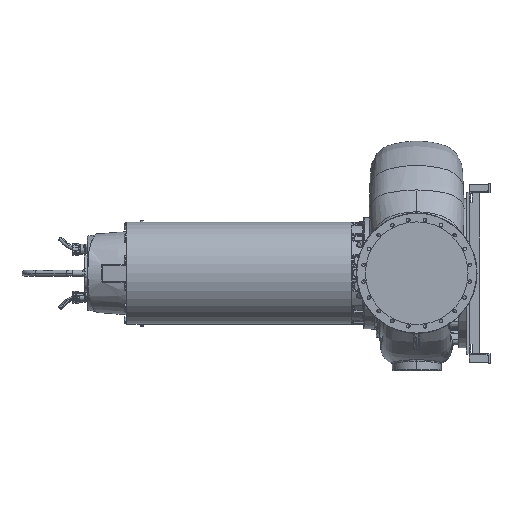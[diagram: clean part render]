
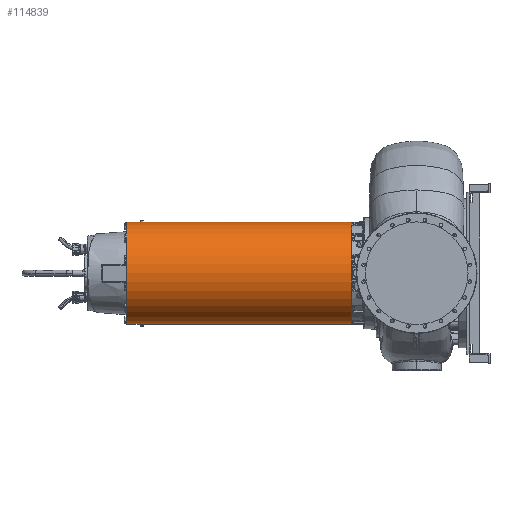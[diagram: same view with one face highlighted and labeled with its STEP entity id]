
A CAD part, left-side view. The second image highlights one B-rep face of the part: STEP entity #114839.
In plain terms, the highlighted cylindrical face has radius 344 mm (diameter 688 mm), a partial arc.
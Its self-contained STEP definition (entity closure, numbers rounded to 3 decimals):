
#769 = DIRECTION ( 'NONE',  ( 0., 0., -1. ) ) ;
#4762 = VERTEX_POINT ( 'NONE', #210845 ) ;
#10743 = CARTESIAN_POINT ( 'NONE',  ( 0., 1843.53, -344. ) ) ;
#10848 = VECTOR ( 'NONE', #113070, 1000. ) ;
#13176 = EDGE_CURVE ( 'NONE', #4762, #105760, #114144, .T. ) ;
#15895 = EDGE_CURVE ( 'NONE', #28999, #262936, #251315, .T. ) ;
#17897 = CARTESIAN_POINT ( 'NONE',  ( -6.334, 1861.813, -343.956 ) ) ;
#20220 = LINE ( 'NONE', #97766, #245668 ) ;
#23845 = VERTEX_POINT ( 'NONE', #263895 ) ;
#28999 = VERTEX_POINT ( 'NONE', #68108 ) ;
#34017 = EDGE_CURVE ( 'NONE', #110295, #28999, #126970, .T. ) ;
#34025 = CYLINDRICAL_SURFACE ( 'NONE', #278737, 344. ) ;
#34175 = VECTOR ( 'NONE', #250456, 1000. ) ;
#37062 = VECTOR ( 'NONE', #103054, 1000. ) ;
#37079 = ORIENTED_EDGE ( 'NONE', *, *, #279748, .T. ) ;
#38640 = ORIENTED_EDGE ( 'NONE', *, *, #50222, .T. ) ;
#43735 = DIRECTION ( 'NONE',  ( 0., -1., 0. ) ) ;
#44722 = CARTESIAN_POINT ( 'NONE',  ( -9.5, 1849.015, -343.869 ) ) ;
#50222 = EDGE_CURVE ( 'NONE', #193313, #262936, #54374, .T. ) ;
#51701 = EDGE_CURVE ( 'NONE', #252935, #62838, #20220, .T. ) ;
#52877 = VERTEX_POINT ( 'NONE', #123889 ) ;
#54374 = LINE ( 'NONE', #271286, #112466 ) ;
#56932 = CARTESIAN_POINT ( 'NONE',  ( 0., 439.5, 0. ) ) ;
#57670 = VECTOR ( 'NONE', #129645, 1000. ) ;
#60225 = VERTEX_POINT ( 'NONE', #10743 ) ;
#62838 = VERTEX_POINT ( 'NONE', #153566 ) ;
#63310 = ORIENTED_EDGE ( 'NONE', *, *, #34017, .F. ) ;
#65454 = CARTESIAN_POINT ( 'NONE',  ( -3.167, 1863.641, -344. ) ) ;
#68108 = CARTESIAN_POINT ( 'NONE',  ( -9.5, 1859.985, -343.869 ) ) ;
#69809 = EDGE_CURVE ( 'NONE', #23845, #52877, #191277, .T. ) ;
#71222 = ORIENTED_EDGE ( 'NONE', *, *, #152974, .F. ) ;
#74904 = CARTESIAN_POINT ( 'NONE',  ( 0., 1954.5, -344. ) ) ;
#78510 = EDGE_LOOP ( 'NONE', ( #172862, #283661, #38640, #173036, #63310, #71222, #37079, #270908, #141430, #255723, #108402, #157745 ) ) ;
#78903 = DIRECTION ( 'NONE',  ( 0., 0., -1. ) ) ;
#79079 = CARTESIAN_POINT ( 'NONE',  ( -9.5, 1859.985, 343.869 ) ) ;
#81293 = CARTESIAN_POINT ( 'NONE',  ( -9.5, 1849.015, 343.869 ) ) ;
#87474 = CARTESIAN_POINT ( 'NONE',  ( 0., 1865.47, -344. ) ) ;
#94871 = CARTESIAN_POINT ( 'NONE',  ( 0., 1954.5, 344. ) ) ;
#97591 = CARTESIAN_POINT ( 'NONE',  ( -9.5, 2094.849, 343.869 ) ) ;
#97766 = CARTESIAN_POINT ( 'NONE',  ( 0., 459.5, 344. ) ) ;
#100256 = CARTESIAN_POINT ( 'NONE',  ( 0., 459.5, 344. ) ) ;
#101003 = CARTESIAN_POINT ( 'NONE',  ( -3.167, 1863.641, 344. ) ) ;
#103054 = DIRECTION ( 'NONE',  ( 0., -1., 0. ) ) ;
#103879 = CARTESIAN_POINT ( 'NONE',  ( 0., 1954.5, 0. ) ) ;
#104723 = CARTESIAN_POINT ( 'NONE',  ( 0., 1843.53, -344. ) ) ;
#105760 = VERTEX_POINT ( 'NONE', #156031 ) ;
#108402 = ORIENTED_EDGE ( 'NONE', *, *, #215104, .T. ) ;
#109267 = AXIS2_PLACEMENT_3D ( 'NONE', #103879, #256831, #125839 ) ;
#110295 = VERTEX_POINT ( 'NONE', #44722 ) ;
#112466 = VECTOR ( 'NONE', #118360, 1000. ) ;
#113070 = DIRECTION ( 'NONE',  ( 0., 1., 0. ) ) ;
#114144 = CIRCLE ( 'NONE', #153413, 344. ) ;
#114839 = ADVANCED_FACE ( 'NONE', ( #177707 ), #34025, .T. ) ;
#115739 = LINE ( 'NONE', #238590, #57670 ) ;
#116871 = CARTESIAN_POINT ( 'NONE',  ( 0., 1865.47, -344. ) ) ;
#118360 = DIRECTION ( 'NONE',  ( 0., -1., 0. ) ) ;
#123889 = CARTESIAN_POINT ( 'NONE',  ( -9.5, 1849.015, 343.869 ) ) ;
#125839 = DIRECTION ( 'NONE',  ( 0., 0., -1. ) ) ;
#126658 = CARTESIAN_POINT ( 'NONE',  ( -6.334, 1847.187, -343.956 ) ) ;
#126970 = LINE ( 'NONE', #267791, #10848 ) ;
#128583 = EDGE_CURVE ( 'NONE', #253833, #62838, #147600, .T. ) ;
#129645 = DIRECTION ( 'NONE',  ( 0., -1., 0. ) ) ;
#138996 = CARTESIAN_POINT ( 'NONE',  ( -9.5, 1859.985, 343.869 ) ) ;
#141430 = ORIENTED_EDGE ( 'NONE', *, *, #143712, .F. ) ;
#143712 = EDGE_CURVE ( 'NONE', #23845, #4762, #269447, .T. ) ;
#147600 =( BOUNDED_CURVE ( )  B_SPLINE_CURVE ( 3, ( #79079, #210075, #101003, #253934 ),
 .UNSPECIFIED., .F., .T. ) 
 B_SPLINE_CURVE_WITH_KNOTS ( ( 4, 4 ),
 ( 4.685, 4.712 ),
 .UNSPECIFIED. ) 
 CURVE ( )  GEOMETRIC_REPRESENTATION_ITEM ( )  RATIONAL_B_SPLINE_CURVE ( ( 1., 1., 1., 1. ) ) 
 REPRESENTATION_ITEM ( '' )  );
#152974 = EDGE_CURVE ( 'NONE', #60225, #110295, #234526, .T. ) ;
#153413 = AXIS2_PLACEMENT_3D ( 'NONE', #56932, #209908, #78903 ) ;
#153566 = CARTESIAN_POINT ( 'NONE',  ( 0., 1865.47, 344. ) ) ;
#156031 = CARTESIAN_POINT ( 'NONE',  ( 0., 439.5, -344. ) ) ;
#157745 = ORIENTED_EDGE ( 'NONE', *, *, #128583, .T. ) ;
#163793 = DIRECTION ( 'NONE',  ( 0., -1., 0. ) ) ;
#172862 = ORIENTED_EDGE ( 'NONE', *, *, #51701, .F. ) ;
#173036 = ORIENTED_EDGE ( 'NONE', *, *, #15895, .F. ) ;
#177707 = FACE_OUTER_BOUND ( 'NONE', #78510, .T. ) ;
#189340 = CARTESIAN_POINT ( 'NONE',  ( 0., 1843.53, 344. ) ) ;
#191277 =( BOUNDED_CURVE ( )  B_SPLINE_CURVE ( 3, ( #189340, #255203, #212252, #81293 ),
 .UNSPECIFIED., .F., .T. ) 
 B_SPLINE_CURVE_WITH_KNOTS ( ( 4, 4 ),
 ( 4.712, 4.74 ),
 .UNSPECIFIED. ) 
 CURVE ( )  GEOMETRIC_REPRESENTATION_ITEM ( )  RATIONAL_B_SPLINE_CURVE ( ( 1., 1., 1., 1. ) ) 
 REPRESENTATION_ITEM ( '' )  );
#193313 = VERTEX_POINT ( 'NONE', #74904 ) ;
#201631 = LINE ( 'NONE', #97591, #34175 ) ;
#209908 = DIRECTION ( 'NONE',  ( 0., -1., 0. ) ) ;
#210075 = CARTESIAN_POINT ( 'NONE',  ( -6.334, 1861.813, 343.956 ) ) ;
#210845 = CARTESIAN_POINT ( 'NONE',  ( 0., 439.5, 344. ) ) ;
#212252 = CARTESIAN_POINT ( 'NONE',  ( -6.334, 1847.187, 343.956 ) ) ;
#215104 = EDGE_CURVE ( 'NONE', #52877, #253833, #201631, .T. ) ;
#218444 = CARTESIAN_POINT ( 'NONE',  ( -9.5, 1859.985, -343.869 ) ) ;
#234526 =( BOUNDED_CURVE ( )  B_SPLINE_CURVE ( 3, ( #104723, #257657, #126658, #279627 ),
 .UNSPECIFIED., .F., .F. ) 
 B_SPLINE_CURVE_WITH_KNOTS ( ( 4, 4 ),
 ( 4.712, 4.74 ),
 .UNSPECIFIED. ) 
 CURVE ( )  GEOMETRIC_REPRESENTATION_ITEM ( )  RATIONAL_B_SPLINE_CURVE ( ( 1., 1., 1., 1. ) ) 
 REPRESENTATION_ITEM ( '' )  );
#237013 = EDGE_CURVE ( 'NONE', #252935, #193313, #259444, .T. ) ;
#238590 = CARTESIAN_POINT ( 'NONE',  ( 0., 459.5, -344. ) ) ;
#239526 = CARTESIAN_POINT ( 'NONE',  ( 0., 459.5, 0. ) ) ;
#245668 = VECTOR ( 'NONE', #163793, 1000. ) ;
#250456 = DIRECTION ( 'NONE',  ( 0., 1., 0. ) ) ;
#251315 =( BOUNDED_CURVE ( )  B_SPLINE_CURVE ( 3, ( #218444, #17897, #65454, #87474 ),
 .UNSPECIFIED., .F., .F. ) 
 B_SPLINE_CURVE_WITH_KNOTS ( ( 4, 4 ),
 ( 4.685, 4.712 ),
 .UNSPECIFIED. ) 
 CURVE ( )  GEOMETRIC_REPRESENTATION_ITEM ( )  RATIONAL_B_SPLINE_CURVE ( ( 1., 1., 1., 1. ) ) 
 REPRESENTATION_ITEM ( '' )  );
#252935 = VERTEX_POINT ( 'NONE', #94871 ) ;
#253833 = VERTEX_POINT ( 'NONE', #138996 ) ;
#253934 = CARTESIAN_POINT ( 'NONE',  ( 0., 1865.47, 344. ) ) ;
#255203 = CARTESIAN_POINT ( 'NONE',  ( -3.167, 1845.359, 344. ) ) ;
#255723 = ORIENTED_EDGE ( 'NONE', *, *, #69809, .T. ) ;
#256831 = DIRECTION ( 'NONE',  ( 0., -1., 0. ) ) ;
#257657 = CARTESIAN_POINT ( 'NONE',  ( -3.167, 1845.359, -344. ) ) ;
#259444 = CIRCLE ( 'NONE', #109267, 344. ) ;
#262936 = VERTEX_POINT ( 'NONE', #116871 ) ;
#263895 = CARTESIAN_POINT ( 'NONE',  ( 0., 1843.53, 344. ) ) ;
#267791 = CARTESIAN_POINT ( 'NONE',  ( -9.5, 2094.849, -343.869 ) ) ;
#269447 = LINE ( 'NONE', #100256, #37062 ) ;
#270908 = ORIENTED_EDGE ( 'NONE', *, *, #13176, .F. ) ;
#271286 = CARTESIAN_POINT ( 'NONE',  ( 0., 459.5, -344. ) ) ;
#278737 = AXIS2_PLACEMENT_3D ( 'NONE', #239526, #43735, #769 ) ;
#279627 = CARTESIAN_POINT ( 'NONE',  ( -9.5, 1849.015, -343.869 ) ) ;
#279748 = EDGE_CURVE ( 'NONE', #60225, #105760, #115739, .T. ) ;
#283661 = ORIENTED_EDGE ( 'NONE', *, *, #237013, .T. ) ;
